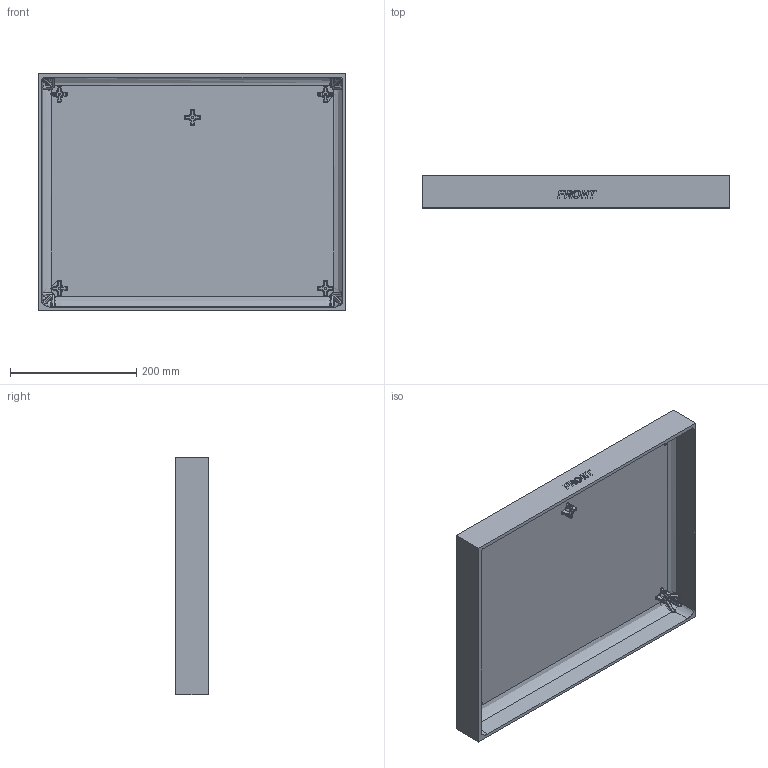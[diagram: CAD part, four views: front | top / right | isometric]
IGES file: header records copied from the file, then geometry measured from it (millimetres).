
Start section: SolidWorks IGES file using analytic representation for surfaces
Global section: file name: C:\temp\EU files dimensions 12-14-15\EU case files in pdf and DXF format\1550 Peli Case Top.IGS; native system: SolidWorks 2014; preprocessor: SolidWorks 2014; author: mhakami; date: 160112.101300; units: inch
Bounding box: 485.57 x 50.8 x 375.43 mm (x, y, z)
Surface area: 522248.2 mm2 (no closed solid volume)
Topology: 0 solids, 0 shells, 813 faces, 7055 edges, 7048 vertices
Faces by surface type: bspline 520, revolution 293
